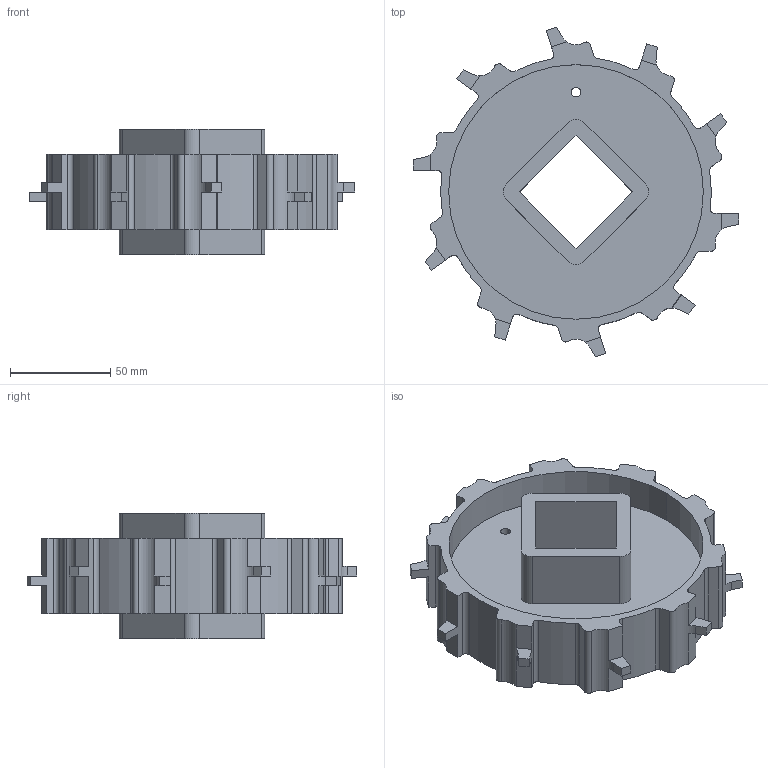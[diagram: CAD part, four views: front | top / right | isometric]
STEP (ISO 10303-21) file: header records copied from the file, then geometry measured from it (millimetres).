
FILE_DESCRIPTION((''),'2;1');
FILE_NAME('S200_DOUBLE_64X15_40_SQ','2008-12-11T',('jmumphre'),(''),'PRO/ENGINEER BY PARAMETRIC TECHNOLOGY CORPORATION, 2008150','PRO/ENGINEER BY PARAMETRIC TECHNOLOGY CORPORATION, 2008150','');
FILE_SCHEMA(('CONFIG_CONTROL_DESIGN'));
Length unit declared in the file: inch
Products named in the file (1): S200_DOUBLE_64X15_40_SQ
Bounding box: 162.5 x 164.56 x 62.48 mm (x, y, z)
Volume: 243544.1 mm3; surface area: 85734.9 mm2
Topology: 1 solids, 1 shells, 162 faces, 468 edges, 312 vertices
Faces by surface type: plane 98, cylinder 64
Entity records: 5408 total; most frequent: CARTESIAN_POINT 942, DIRECTION 940, ORIENTED_EDGE 936, EDGE_CURVE 468, VECTOR 320, LINE 320, VERTEX_POINT 312, AXIS2_PLACEMENT_3D 310
